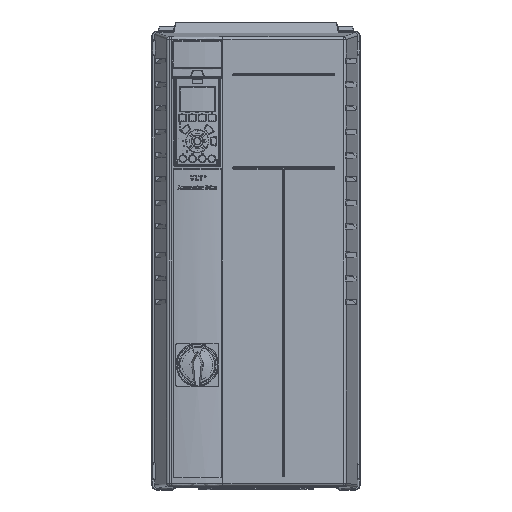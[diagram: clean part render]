
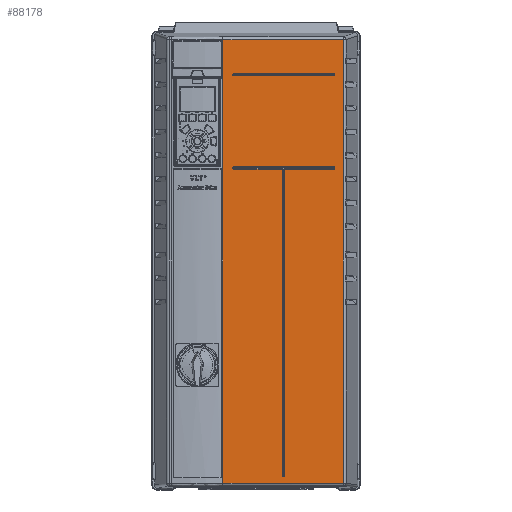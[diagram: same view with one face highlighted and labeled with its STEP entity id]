
A CAD part, top view. The second image highlights one B-rep face of the part: STEP entity #88178.
In plain terms, the highlighted planar face has unit normal (0, 0, 1).
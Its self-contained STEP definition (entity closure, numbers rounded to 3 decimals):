
#36=CARTESIAN_POINT('',(-49.,-330.069,143.209));
#47=DIRECTION('',(0.,-1.,0.));
#48=VECTOR('',#47,656.843);
#49=CARTESIAN_POINT('',(-49.,326.774,143.209));
#50=LINE('',#49,#48);
#233=DIRECTION('',(0.,1.,0.));
#234=VECTOR('',#233,656.845);
#235=CARTESIAN_POINT('',(129.231,-330.069,143.209));
#236=LINE('',#235,#234);
#237=DIRECTION('',(1.,0.,0.));
#238=VECTOR('',#237,178.231);
#239=CARTESIAN_POINT('',(-49.,-330.069,143.209));
#240=LINE('',#239,#238);
#241=DIRECTION('',(-1.,0.,0.));
#242=VECTOR('',#241,178.231);
#243=CARTESIAN_POINT('',(129.231,326.775,143.209));
#244=LINE('',#243,#242);
#245=CARTESIAN_POINT('',(115.3,275.4,143.209));
#246=DIRECTION('',(0.,0.,-1.));
#247=DIRECTION('',(0.,1.,0.));
#248=AXIS2_PLACEMENT_3D('',#245,#246,#247);
#250=DIRECTION('',(1.,0.,0.));
#251=VECTOR('',#250,148.6);
#252=CARTESIAN_POINT('',(-33.3,276.487,143.209));
#253=LINE('',#252,#251);
#254=CARTESIAN_POINT('',(-33.3,275.4,143.209));
#255=DIRECTION('',(0.,0.,-1.));
#256=DIRECTION('',(-1.,0.,0.));
#257=AXIS2_PLACEMENT_3D('',#254,#255,#256);
#259=DIRECTION('',(0.,1.,0.));
#260=VECTOR('',#259,1.1);
#261=CARTESIAN_POINT('',(-34.387,274.3,143.209));
#262=LINE('',#261,#260);
#263=CARTESIAN_POINT('',(-33.3,274.3,143.209));
#264=DIRECTION('',(0.,0.,-1.));
#265=DIRECTION('',(0.,-1.,0.));
#266=AXIS2_PLACEMENT_3D('',#263,#264,#265);
#268=DIRECTION('',(-1.,0.,0.));
#269=VECTOR('',#268,148.6);
#270=CARTESIAN_POINT('',(115.3,273.213,143.209));
#271=LINE('',#270,#269);
#272=CARTESIAN_POINT('',(115.3,274.3,143.209));
#273=DIRECTION('',(0.,0.,-1.));
#274=DIRECTION('',(1.,0.,0.));
#275=AXIS2_PLACEMENT_3D('',#272,#273,#274);
#277=DIRECTION('',(0.,-1.,0.));
#278=VECTOR('',#277,1.1);
#279=CARTESIAN_POINT('',(116.387,275.4,143.209));
#280=LINE('',#279,#278);
#281=CARTESIAN_POINT('',(115.3,137.4,143.209));
#282=DIRECTION('',(0.,0.,-1.));
#283=DIRECTION('',(0.,1.,0.));
#284=AXIS2_PLACEMENT_3D('',#281,#282,#283);
#286=DIRECTION('',(1.,0.,0.));
#287=VECTOR('',#286,148.6);
#288=CARTESIAN_POINT('',(-33.3,138.487,143.209));
#289=LINE('',#288,#287);
#290=CARTESIAN_POINT('',(-33.3,137.4,143.209));
#291=DIRECTION('',(0.,0.,-1.));
#292=DIRECTION('',(-1.,0.,0.));
#293=AXIS2_PLACEMENT_3D('',#290,#291,#292);
#295=DIRECTION('',(0.,1.,0.));
#296=VECTOR('',#295,1.1);
#297=CARTESIAN_POINT('',(-34.387,136.3,143.209));
#298=LINE('',#297,#296);
#299=CARTESIAN_POINT('',(-33.3,136.3,143.209));
#300=DIRECTION('',(0.,0.,-1.));
#301=DIRECTION('',(0.,-1.,0.));
#302=AXIS2_PLACEMENT_3D('',#299,#300,#301);
#304=DIRECTION('',(-1.,0.,0.));
#305=VECTOR('',#304,72.35);
#306=CARTESIAN_POINT('',(39.05,135.213,143.209));
#307=LINE('',#306,#305);
#308=CARTESIAN_POINT('',(39.05,134.9,143.209));
#309=DIRECTION('',(0.,0.,1.));
#310=DIRECTION('',(1.,0.,0.));
#311=AXIS2_PLACEMENT_3D('',#308,#309,#310);
#313=DIRECTION('',(0.,1.,0.));
#314=VECTOR('',#313,453.55);
#315=CARTESIAN_POINT('',(39.363,-318.65,143.209));
#316=LINE('',#315,#314);
#317=CARTESIAN_POINT('',(40.45,-318.65,143.209));
#318=DIRECTION('',(0.,0.,-1.));
#319=DIRECTION('',(0.,-1.,0.));
#320=AXIS2_PLACEMENT_3D('',#317,#318,#319);
#322=DIRECTION('',(-1.,0.,0.));
#323=VECTOR('',#322,1.1);
#324=CARTESIAN_POINT('',(41.55,-319.737,143.209));
#325=LINE('',#324,#323);
#326=CARTESIAN_POINT('',(41.55,-318.65,143.209));
#327=DIRECTION('',(0.,0.,-1.));
#328=DIRECTION('',(1.,0.,0.));
#329=AXIS2_PLACEMENT_3D('',#326,#327,#328);
#331=DIRECTION('',(0.,-1.,0.));
#332=VECTOR('',#331,453.55);
#333=CARTESIAN_POINT('',(42.637,134.9,143.209));
#334=LINE('',#333,#332);
#335=CARTESIAN_POINT('',(42.95,134.9,143.209));
#336=DIRECTION('',(0.,0.,1.));
#337=DIRECTION('',(0.,1.,0.));
#338=AXIS2_PLACEMENT_3D('',#335,#336,#337);
#340=DIRECTION('',(-1.,0.,0.));
#341=VECTOR('',#340,72.35);
#342=CARTESIAN_POINT('',(115.3,135.213,143.209));
#343=LINE('',#342,#341);
#344=CARTESIAN_POINT('',(115.3,136.3,143.209));
#345=DIRECTION('',(0.,0.,-1.));
#346=DIRECTION('',(1.,0.,0.));
#347=AXIS2_PLACEMENT_3D('',#344,#345,#346);
#349=DIRECTION('',(0.,-1.,0.));
#350=VECTOR('',#349,1.1);
#351=CARTESIAN_POINT('',(116.387,137.4,143.209));
#352=LINE('',#351,#350);
#25028=CARTESIAN_POINT('',(-49.,326.774,
143.209));
#82670=CARTESIAN_POINT('',(129.231,-330.069,
143.209));
#82671=CARTESIAN_POINT('',(129.231,326.775,143.209));
#82672=VERTEX_POINT('',#82670);
#82673=VERTEX_POINT('',#82671);
#82684=VERTEX_POINT('',#36);
#82695=VERTEX_POINT('',#25028);
#83448=CARTESIAN_POINT('',(115.3,276.487,143.209));
#83449=CARTESIAN_POINT('',(116.387,275.4,143.209));
#83450=VERTEX_POINT('',#83448);
#83451=VERTEX_POINT('',#83449);
#83452=CARTESIAN_POINT('',(116.387,274.3,143.209));
#83453=VERTEX_POINT('',#83452);
#83454=CARTESIAN_POINT('',(115.3,273.213,143.209));
#83455=VERTEX_POINT('',#83454);
#83456=CARTESIAN_POINT('',(-33.3,273.213,
143.209));
#83457=VERTEX_POINT('',#83456);
#83458=CARTESIAN_POINT('',(-34.387,274.3,143.209));
#83459=VERTEX_POINT('',#83458);
#83460=CARTESIAN_POINT('',(-34.387,275.4,143.209));
#83461=VERTEX_POINT('',#83460);
#83462=CARTESIAN_POINT('',(-33.3,276.487,143.209));
#83463=VERTEX_POINT('',#83462);
#83464=CARTESIAN_POINT('',(115.3,138.487,143.209));
#83465=CARTESIAN_POINT('',(116.387,137.4,143.209));
#83466=VERTEX_POINT('',#83464);
#83467=VERTEX_POINT('',#83465);
#83468=CARTESIAN_POINT('',(116.387,136.3,143.209));
#83469=VERTEX_POINT('',#83468);
#83470=CARTESIAN_POINT('',(115.3,135.213,143.209));
#83471=VERTEX_POINT('',#83470);
#83472=CARTESIAN_POINT('',(42.95,135.213,143.209));
#83473=VERTEX_POINT('',#83472);
#83474=CARTESIAN_POINT('',(42.637,134.9,143.209));
#83475=VERTEX_POINT('',#83474);
#83476=CARTESIAN_POINT('',(42.637,-318.65,143.209));
#83477=VERTEX_POINT('',#83476);
#83478=CARTESIAN_POINT('',(41.55,-319.737,143.209));
#83479=VERTEX_POINT('',#83478);
#83480=CARTESIAN_POINT('',(40.45,-319.737,
143.209));
#83481=VERTEX_POINT('',#83480);
#83482=CARTESIAN_POINT('',(39.363,-318.65,143.209));
#83483=VERTEX_POINT('',#83482);
#83484=CARTESIAN_POINT('',(39.363,134.9,143.209));
#83485=VERTEX_POINT('',#83484);
#83486=CARTESIAN_POINT('',(39.05,135.213,143.209));
#83487=VERTEX_POINT('',#83486);
#83488=CARTESIAN_POINT('',(-33.3,135.213,
143.209));
#83489=VERTEX_POINT('',#83488);
#83490=CARTESIAN_POINT('',(-34.387,136.3,143.209));
#83491=VERTEX_POINT('',#83490);
#83492=CARTESIAN_POINT('',(-34.387,137.4,143.209));
#83493=VERTEX_POINT('',#83492);
#83494=CARTESIAN_POINT('',(-33.3,138.487,143.209));
#83495=VERTEX_POINT('',#83494);
#88113=CARTESIAN_POINT('',(132.757,336.5,143.209));
#88114=DIRECTION('',(0.,0.,1.));
#88115=DIRECTION('',(-1.,0.,0.));
#88116=AXIS2_PLACEMENT_3D('',#88113,#88114,#88115);
#88117=PLANE('',#88116);
#88119=ORIENTED_EDGE('',*,*,#88118,.F.);
#88120=ORIENTED_EDGE('',*,*,#88103,.F.);
#88121=ORIENTED_EDGE('',*,*,#87991,.F.);
#88123=ORIENTED_EDGE('',*,*,#88122,.F.);
#88124=EDGE_LOOP('',(#88119,#88120,#88121,#88123));
#88125=FACE_OUTER_BOUND('',#88124,.F.);
#88127=ORIENTED_EDGE('',*,*,#88126,.F.);
#88129=ORIENTED_EDGE('',*,*,#88128,.F.);
#88131=ORIENTED_EDGE('',*,*,#88130,.F.);
#88133=ORIENTED_EDGE('',*,*,#88132,.F.);
#88135=ORIENTED_EDGE('',*,*,#88134,.F.);
#88137=ORIENTED_EDGE('',*,*,#88136,.F.);
#88139=ORIENTED_EDGE('',*,*,#88138,.F.);
#88141=ORIENTED_EDGE('',*,*,#88140,.F.);
#88142=EDGE_LOOP('',(#88127,#88129,#88131,#88133,#88135,#88137,#88139,#88141));
#88143=FACE_BOUND('',#88142,.F.);
#88145=ORIENTED_EDGE('',*,*,#88144,.F.);
#88147=ORIENTED_EDGE('',*,*,#88146,.F.);
#88149=ORIENTED_EDGE('',*,*,#88148,.F.);
#88151=ORIENTED_EDGE('',*,*,#88150,.F.);
#88153=ORIENTED_EDGE('',*,*,#88152,.F.);
#88155=ORIENTED_EDGE('',*,*,#88154,.F.);
#88157=ORIENTED_EDGE('',*,*,#88156,.F.);
#88159=ORIENTED_EDGE('',*,*,#88158,.F.);
#88161=ORIENTED_EDGE('',*,*,#88160,.F.);
#88163=ORIENTED_EDGE('',*,*,#88162,.F.);
#88165=ORIENTED_EDGE('',*,*,#88164,.F.);
#88167=ORIENTED_EDGE('',*,*,#88166,.F.);
#88169=ORIENTED_EDGE('',*,*,#88168,.F.);
#88171=ORIENTED_EDGE('',*,*,#88170,.F.);
#88173=ORIENTED_EDGE('',*,*,#88172,.F.);
#88175=ORIENTED_EDGE('',*,*,#88174,.F.);
#88176=EDGE_LOOP('',(#88145,#88147,#88149,#88151,#88153,#88155,#88157,#88159,
#88161,#88163,#88165,#88167,#88169,#88171,#88173,#88175));
#88177=FACE_BOUND('',#88176,.F.);
#249=CIRCLE('',#248,1.087);
#258=CIRCLE('',#257,1.087);
#267=CIRCLE('',#266,1.087);
#276=CIRCLE('',#275,1.087);
#285=CIRCLE('',#284,1.087);
#294=CIRCLE('',#293,1.087);
#303=CIRCLE('',#302,1.087);
#312=CIRCLE('',#311,0.313);
#321=CIRCLE('',#320,1.087);
#330=CIRCLE('',#329,1.087);
#339=CIRCLE('',#338,0.313);
#348=CIRCLE('',#347,1.087);
#87991=EDGE_CURVE('',#82695,#82684,#50,.T.);
#88103=EDGE_CURVE('',#82684,#82672,#240,.T.);
#88118=EDGE_CURVE('',#82672,#82673,#236,.T.);
#88122=EDGE_CURVE('',#82673,#82695,#244,.T.);
#88126=EDGE_CURVE('',#83450,#83451,#249,.T.);
#88128=EDGE_CURVE('',#83463,#83450,#253,.T.);
#88130=EDGE_CURVE('',#83461,#83463,#258,.T.);
#88132=EDGE_CURVE('',#83459,#83461,#262,.T.);
#88134=EDGE_CURVE('',#83457,#83459,#267,.T.);
#88136=EDGE_CURVE('',#83455,#83457,#271,.T.);
#88138=EDGE_CURVE('',#83453,#83455,#276,.T.);
#88140=EDGE_CURVE('',#83451,#83453,#280,.T.);
#88144=EDGE_CURVE('',#83466,#83467,#285,.T.);
#88146=EDGE_CURVE('',#83495,#83466,#289,.T.);
#88148=EDGE_CURVE('',#83493,#83495,#294,.T.);
#88150=EDGE_CURVE('',#83491,#83493,#298,.T.);
#88152=EDGE_CURVE('',#83489,#83491,#303,.T.);
#88154=EDGE_CURVE('',#83487,#83489,#307,.T.);
#88156=EDGE_CURVE('',#83485,#83487,#312,.T.);
#88158=EDGE_CURVE('',#83483,#83485,#316,.T.);
#88160=EDGE_CURVE('',#83481,#83483,#321,.T.);
#88162=EDGE_CURVE('',#83479,#83481,#325,.T.);
#88164=EDGE_CURVE('',#83477,#83479,#330,.T.);
#88166=EDGE_CURVE('',#83475,#83477,#334,.T.);
#88168=EDGE_CURVE('',#83473,#83475,#339,.T.);
#88170=EDGE_CURVE('',#83471,#83473,#343,.T.);
#88172=EDGE_CURVE('',#83469,#83471,#348,.T.);
#88174=EDGE_CURVE('',#83467,#83469,#352,.T.);
#88178=ADVANCED_FACE('',(#88125,#88143,#88177),#88117,.T.);
